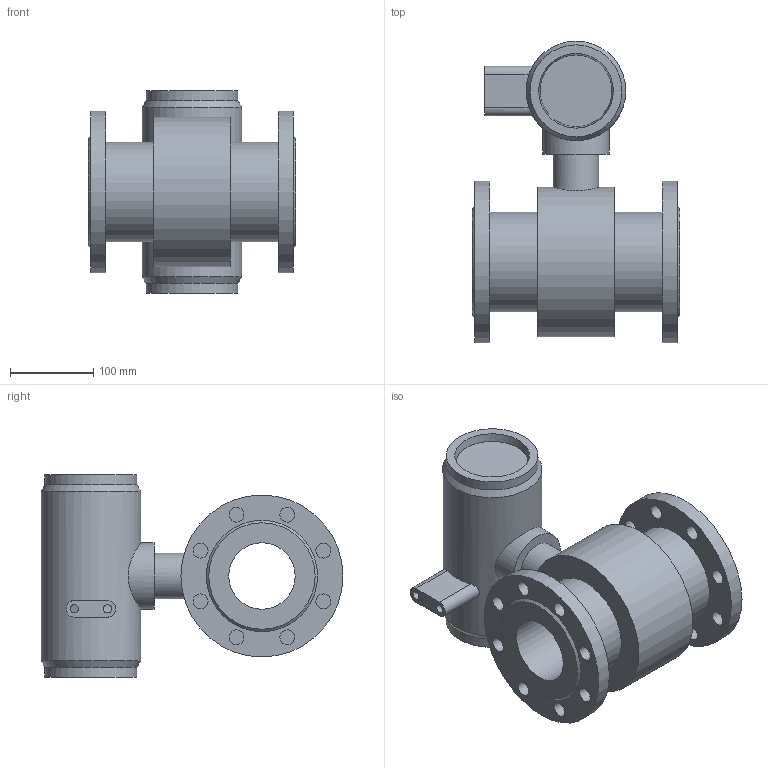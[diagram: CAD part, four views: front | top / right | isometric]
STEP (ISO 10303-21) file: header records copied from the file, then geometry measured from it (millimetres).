
FILE_DESCRIPTION( (''), '2;1');
FILE_NAME( 'QMKA_DN80.step', '2023-08-01T09:50:34+08:00', (''), (''), '', '', '');
FILE_SCHEMA (('AUTOMOTIVE_DESIGN { 1 0 10303 214 3 1 1 1 }'));
Length unit declared in the file: millimetre
Products named in the file (1): QMKA DN80
Bounding box: 250 x 363.5 x 244 mm (x, y, z)
Volume: 6308490 mm3; surface area: 439728.4 mm2
Topology: 1 solids, 1 shells, 55 faces, 130 edges, 91 vertices
Faces by surface type: cylinder 33, plane 16, cone 6
Full cylindrical faces by diameter (mm): 10 x2, 18 x16, 55 x1, 80 x2, 110.762 x2, 120 x3, 180 x1, 195 x2
Entity records: 1530 total; most frequent: CARTESIAN_POINT 344, DIRECTION 250, ORIENTED_EDGE 156, EDGE_LOOP 138, FACE_BOUND 130, AXIS2_PLACEMENT_3D 122, EDGE_CURVE 78, VERTEX_POINT 74
